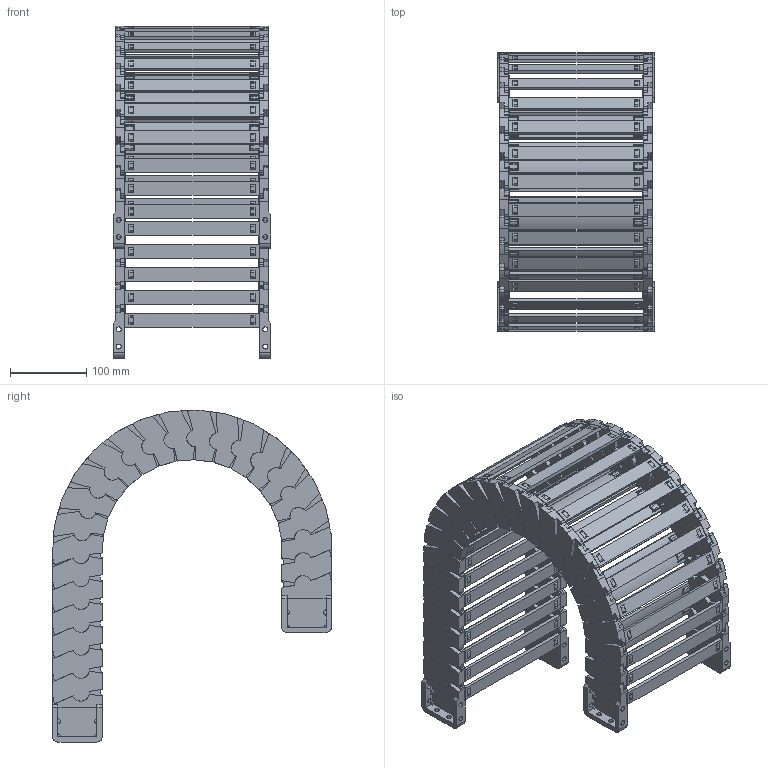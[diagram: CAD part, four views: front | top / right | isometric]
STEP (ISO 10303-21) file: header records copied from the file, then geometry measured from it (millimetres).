
FILE_DESCRIPTION((''),'2;1');
FILE_NAME('JY-52X175-R150_ASM','2026-05-04T14:48:16',('admin'),(''),'CREO PARAMETRIC BY PTC INC, 2021023','CREO PARAMETRIC BY PTC INC, 2021023','');
FILE_SCHEMA(('CONFIG_CONTROL_DESIGN'));
Length unit declared in the file: millimetre
Products named in the file (11): 52XL-L; 42-52XL-YP; 52XL-R; ASM0001_ASM; 52-LTT-A-L; 52-LTT-A-R; 52XL-LTT-A_ASM; 52-LTT-B-L; 52-LTT-B-R; 52XL-LTT-B_ASM; JY-52X175-R150_ASM
Assembly tree (37 placements, depth 3):
  JY-52X175-R150_ASM
    ASM0001_ASM  x23
      52XL-L
      42-52XL-YP
      52XL-R
    52XL-LTT-A_ASM
      52-LTT-A-L
      42-52XL-YP  x2
      52-LTT-A-R
    52XL-LTT-B_ASM
      52-LTT-B-L
      42-52XL-YP  x2
      52-LTT-B-R
Bounding box: 206 x 365.02 x 434.64 mm (x, y, z)
Volume: 1837552.1 mm3; surface area: 923156.3 mm2
Topology: 100 solids, 100 shells, 5112 faces, 15490 edges, 10576 vertices
Faces by surface type: plane 3634, cylinder 1094, cone 384
Entity records: 18514 total; most frequent: CARTESIAN_POINT 3398, DIRECTION 3142, ORIENTED_EDGE 3124, EDGE_CURVE 1562, VECTOR 1074, LINE 1074, VERTEX_POINT 1056, AXIS2_PLACEMENT_3D 1034
